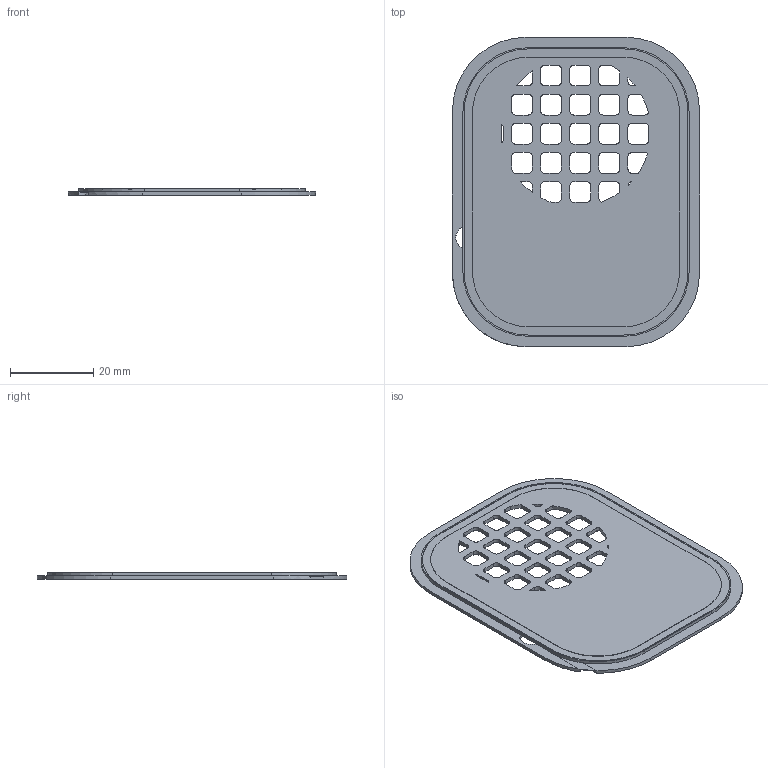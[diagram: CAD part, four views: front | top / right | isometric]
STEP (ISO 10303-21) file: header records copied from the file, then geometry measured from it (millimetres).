
FILE_DESCRIPTION(('Open CASCADE Model'),'2;1');
FILE_NAME('Open CASCADE Shape Model','2026-09-06T11:30:36',('Author'),( 'Open CASCADE'),'Open CASCADE STEP processor 7.7','Open CASCADE 7.7' ,'Unknown');
FILE_SCHEMA(('AUTOMOTIVE_DESIGN { 1 0 10303 214 1 1 1 1 }'));
Length unit declared in the file: millimetre
Products named in the file (1): Open CASCADE STEP translator 7.7 15
Bounding box: 59.4 x 74.4 x 1.55 mm (x, y, z)
Volume: 3636.4 mm3; surface area: 8224 mm2
Topology: 1 solids, 1 shells, 238 faces, 703 edges, 468 vertices
Faces by surface type: plane 119, cylinder 119
Full cylindrical faces by diameter (mm): 5.8 x1
Entity records: 17366 total; most frequent: CARTESIAN_POINT 3056, DIRECTION 2777, LINE 1601, VECTOR 1601, ORIENTED_EDGE 1406, PCURVE 1406, DEFINITIONAL_REPRESENTATION 1406, EDGE_CURVE 703
